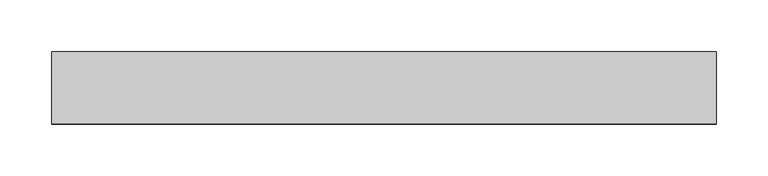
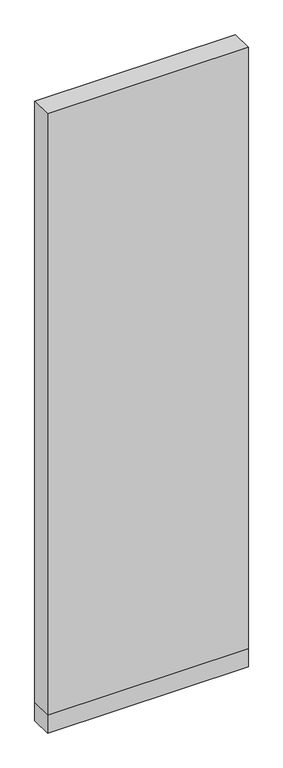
"""IFC4 building model written with IfcOpenShell, lengths in millimetres: plate geometry, 営_パーティションパネル_下部 : パーティションパネル_下部."""

import ifcopenshell
import ifcopenshell.guid

model = None  # the IFC model being written
_history = None  # IfcOwnerHistory: only IFC2X3 demands one
_inside = {}  # id of a spatial element -> (the spatial element, [elements in it])
_under = {}  # id of a project, library or spatial element -> (it, [spatial elements below it])
_declared = {}  # id of a project -> (the project, [libraries it declares])
_typed = {}  # id of a type object -> (the type object, [elements of that type])
_made_of = {}  # id of a material, layer set ... -> (it, [elements and type objects made of it])


def new_model(schema):
    """Start an empty IFC model of exactly this schema.

    Asked for "IFC4X3", IfcOpenShell would pick the latest addendum, in which some entities
    have other attributes; the version numbers below select the first issue.
    IFC2X3 requires an IfcOwnerHistory on every rooted entity: one is made here for all.
    """
    global model, _history
    if schema == "IFC4X3":
        model = ifcopenshell.file(schema_version=(4, 3, 0, 0))
    else:
        model = ifcopenshell.file(schema=schema)
    _inside.clear()
    _under.clear()
    _declared.clear()
    _typed.clear()
    _made_of.clear()
    _history = None
    if model.schema == "IFC2X3":
        org = make("IfcOrganization", Name="unknown")
        user = make(
            "IfcPersonAndOrganization",
            ThePerson=make("IfcPerson", FamilyName="unknown"),
            TheOrganization=org,
        )
        app = make(
            "IfcApplication",
            ApplicationDeveloper=org,
            Version="unknown",
            ApplicationFullName="unknown",
            ApplicationIdentifier="unknown",
        )
        _history = make(
            "IfcOwnerHistory",
            OwningUser=user,
            OwningApplication=app,
            ChangeAction="ADDED",
            CreationDate=0,
        )
    return model


def make(cls, **values):
    """One entity of the class cls with the attributes given. An attribute that is None is left unset."""
    return model.create_entity(
        cls, **{name: value for name, value in values.items() if value is not None}
    )


def rooted(cls, **values):
    """An entity with a GlobalId (a new one), such as an element, a storey or a relation."""
    return make(cls, GlobalId=ifcopenshell.guid.new(), OwnerHistory=_history, **values)


def si_unit(unit_type, name, prefix=None):
    """IfcSIUnit, for example si_unit("LENGTHUNIT", "METRE", prefix="MILLI")."""
    return make("IfcSIUnit", UnitType=unit_type, Prefix=prefix, Name=name)


def assignment(units):
    """IfcUnitAssignment: the units of a project."""
    return None if units is None else make("IfcUnitAssignment", Units=units)


def point(xyz):
    """IfcCartesianPoint."""
    return None if xyz is None else make("IfcCartesianPoint", Coordinates=xyz)


def direction(xyz):
    """IfcDirection."""
    return None if xyz is None else make("IfcDirection", DirectionRatios=xyz)


def frame(location, z_axis=None, x_axis=None):
    """IfcAxis2Placement3D, a coordinate frame: its origin and axes. An axis left out is left unset."""
    return make(
        "IfcAxis2Placement3D",
        Location=point(location),
        Axis=direction(z_axis),
        RefDirection=direction(x_axis),
    )


def origin():
    """The frame at (0, 0, 0) with its axes left unset."""
    return frame((0.0, 0.0, 0.0))


def origin_with_axes():
    """The frame at (0, 0, 0) with the z axis (0, 0, 1) and the x axis (1, 0, 0) written out."""
    return frame((0.0, 0.0, 0.0), z_axis=(0.0, 0.0, 1.0), x_axis=(1.0, 0.0, 0.0))


def place(relative_to, where):
    """IfcLocalPlacement: puts the frame where relative to a parent placement (None: the world)."""
    return make(
        "IfcLocalPlacement", PlacementRelTo=relative_to, RelativePlacement=where
    )


def context(
    kind, dimensions, precision=None, world=None, true_north=None, identifier=None
):
    """IfcGeometricRepresentationContext, for example the 3D "Model" context."""
    return make(
        "IfcGeometricRepresentationContext",
        ContextIdentifier=identifier,
        ContextType=kind,
        CoordinateSpaceDimension=dimensions,
        Precision=precision,
        WorldCoordinateSystem=world,
        TrueNorth=true_north,
    )


def project(units=None, contexts=None):
    """IfcProject with its units and contexts."""
    return rooted(
        "IfcProject",
        Name="project",
        RepresentationContexts=contexts,
        UnitsInContext=assignment(units),
    )


def spatial(cls, under=None, at=None, **own):
    """A site, building, storey or space (cls), placed at a placement, below another one or the project."""
    s = rooted(cls, ObjectPlacement=at, **own)
    if under is not None:
        _under.setdefault(under.id(), (under, []))[1].append(s)
    return s


def polyline(points):
    """IfcPolyline through the points."""
    return make("IfcPolyline", Points=[point(p) for p in points])


def outline(outer, holes=None, kind="AREA"):
    """IfcArbitraryClosedProfileDef: a profile drawn as a closed curve; with holes, ...WithVoids."""
    if holes is None:
        return make("IfcArbitraryClosedProfileDef", ProfileType=kind, OuterCurve=outer)
    return make(
        "IfcArbitraryProfileDefWithVoids",
        ProfileType=kind,
        OuterCurve=outer,
        InnerCurves=holes,
    )


def extrude(swept, where, along, depth):
    """IfcExtrudedAreaSolid: the profile swept, set in the frame where, extruded along a direction by depth."""
    return make(
        "IfcExtrudedAreaSolid",
        SweptArea=swept,
        Position=where,
        ExtrudedDirection=direction(along),
        Depth=depth,
    )


def shape(context_of_items, identifier, shape_type, items):
    """IfcShapeRepresentation: the items that make up one representation, for example the "Body"."""
    return make(
        "IfcShapeRepresentation",
        ContextOfItems=context_of_items,
        RepresentationIdentifier=identifier,
        RepresentationType=shape_type,
        Items=items,
    )


def source(mapping_origin, context_of_items, identifier, shape_type, items):
    """IfcRepresentationMap: a shape defined once, which mapped items show again and again."""
    return make(
        "IfcRepresentationMap",
        MappingOrigin=mapping_origin,
        MappedRepresentation=shape(context_of_items, identifier, shape_type, items),
    )


def transform(
    local_origin,
    x_axis=None,
    y_axis=None,
    z_axis=None,
    scale=None,
    scale2=None,
    scale3=None,
    uniform=True,
):
    """IfcCartesianTransformationOperator3D, or its non-uniform kind. x_axis, y_axis, z_axis: its Axis1, 2, 3."""
    if uniform:
        return make(
            "IfcCartesianTransformationOperator3D",
            Axis1=direction(x_axis),
            Axis2=direction(y_axis),
            LocalOrigin=point(local_origin),
            Scale=scale,
            Axis3=direction(z_axis),
        )
    return make(
        "IfcCartesianTransformationOperator3DnonUniform",
        Axis1=direction(x_axis),
        Axis2=direction(y_axis),
        LocalOrigin=point(local_origin),
        Scale=scale,
        Axis3=direction(z_axis),
        Scale2=scale2,
        Scale3=scale3,
    )


def mapped(mapping_source, mapping_target):
    """IfcMappedItem: shows the shape of a source again, moved by a transform."""
    return make(
        "IfcMappedItem", MappingSource=mapping_source, MappingTarget=mapping_target
    )


def made_of(thing, what):
    """Note that an element or type object is made of a material, layer set ...; save() writes the relation."""
    if what is not None:
        _made_of.setdefault(what.id(), (what, []))[1].append(thing)
    return thing


def element(
    cls,
    number,
    at=None,
    inside=None,
    cuts=None,
    type_object=None,
    material=None,
    context=None,
    identifier="Body",
    shape_type=None,
    held_by="IfcProductDefinitionShape",
    body=None,
    shapes=None,
    **own,
):
    """One element of the class cls, such as IfcWall. Its Tag is "e" and its number.

    at: its placement. inside: the storey or other place that contains it. cuts: it is an
    opening in that element (IfcRelVoidsElement). A single representation is given by context,
    identifier, shape_type and body (its items); several are given by shapes. held_by: the class
    of the entity that holds the representations. save() writes the other relations.
    """
    e = rooted(cls, Tag="e%d" % number, ObjectPlacement=at, **own)
    if body is not None:
        shapes = [shape(context, identifier, shape_type, body)]
    if shapes is not None:
        e.Representation = make(held_by, Representations=shapes)
    if inside is not None:
        _inside.setdefault(inside.id(), (inside, []))[1].append(e)
    if cuts is not None:
        rooted(
            "IfcRelVoidsElement", RelatingBuildingElement=cuts, RelatedOpeningElement=e
        )
    if type_object is not None:
        _typed.setdefault(type_object.id(), (type_object, []))[1].append(e)
    return made_of(e, material)


def aggregate(whole, parts):
    """IfcRelAggregates: a whole, such as a stair, and the parts it consists of."""
    return rooted("IfcRelAggregates", RelatingObject=whole, RelatedObjects=parts)


def save(model, path):
    """Write the relations noted so far, then the file.

    IfcRelAggregates (storeys below a building ...), IfcRelContainedInSpatialStructure (elements
    in a storey), IfcRelDefinesByType, IfcRelAssociatesMaterial and IfcRelDeclares: one each for
    every whole, place, type object, material and project.
    """
    for whole, parts in _under.values():
        aggregate(whole, parts)
    for where, things in _inside.values():
        rooted(
            "IfcRelContainedInSpatialStructure",
            RelatedElements=things,
            RelatingStructure=where,
        )
    for kind, things in _typed.values():
        rooted("IfcRelDefinesByType", RelatedObjects=things, RelatingType=kind)
    for what, things in _made_of.values():
        rooted("IfcRelAssociatesMaterial", RelatedObjects=things, RelatingMaterial=what)
    for by, libraries in _declared.values():
        rooted("IfcRelDeclares", RelatingContext=by, RelatedDefinitions=libraries)
    model.write(path)


def plate_48083828(model_context):
    return source(origin(), model_context, "Body", "SweptSolid", [
        extrude(outline(polyline([(-322.4999998, -35.0), (-322.4999998, 35.0), (322.4999998, 35.0), (322.4999998, -35.0), (-322.4999998, -35.0)])), origin_with_axes(), (0.0, 0.0, 1.0), 60.0),
        extrude(outline(polyline([(-322.4999998, -35.0), (-322.4999998, 35.0), (322.4999998, 35.0), (322.4999998, -35.0), (-322.4999998, -35.0)])), frame((0.0, 0.0, 60.0), z_axis=(0.0, 0.0, 1.0), x_axis=(1.0, 0.0, 0.0)), (0.0, 0.0, 1.0), 2040.0),
    ])


if __name__ == "__main__":
    model = new_model("IFC4")
    model_context = context("Model", 3, world=origin())
    ifc_project = project(units=[si_unit("LENGTHUNIT", "METRE", prefix="MILLI")], contexts=[model_context])
    site = spatial("IfcSite", under=ifc_project)
    building = spatial("IfcBuilding", under=site)
    placement = place(None, origin())
    plate_shape = plate_48083828(model_context)
    element("IfcPlate", 1, ObjectType="営_パーティションパネル_下部 : パーティションパネル_下部", at=placement, inside=building, context=model_context, shape_type="MappedRepresentation", body=[
        mapped(plate_shape, transform((0.0, 0.0, 0.0), x_axis=(1.0, 0.0, 0.0), y_axis=(0.0, 1.0, 0.0), z_axis=(0.0, 0.0, 1.0))),
    ])
    save(model, "model.ifc")
